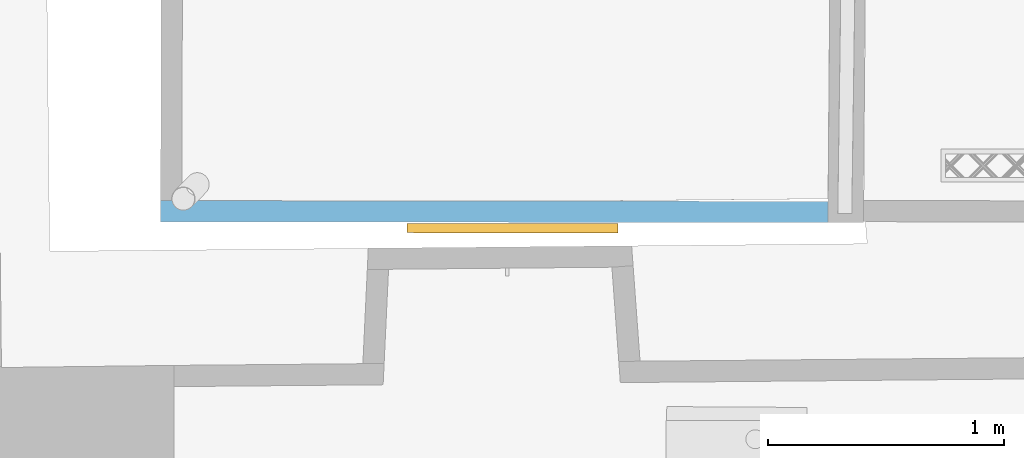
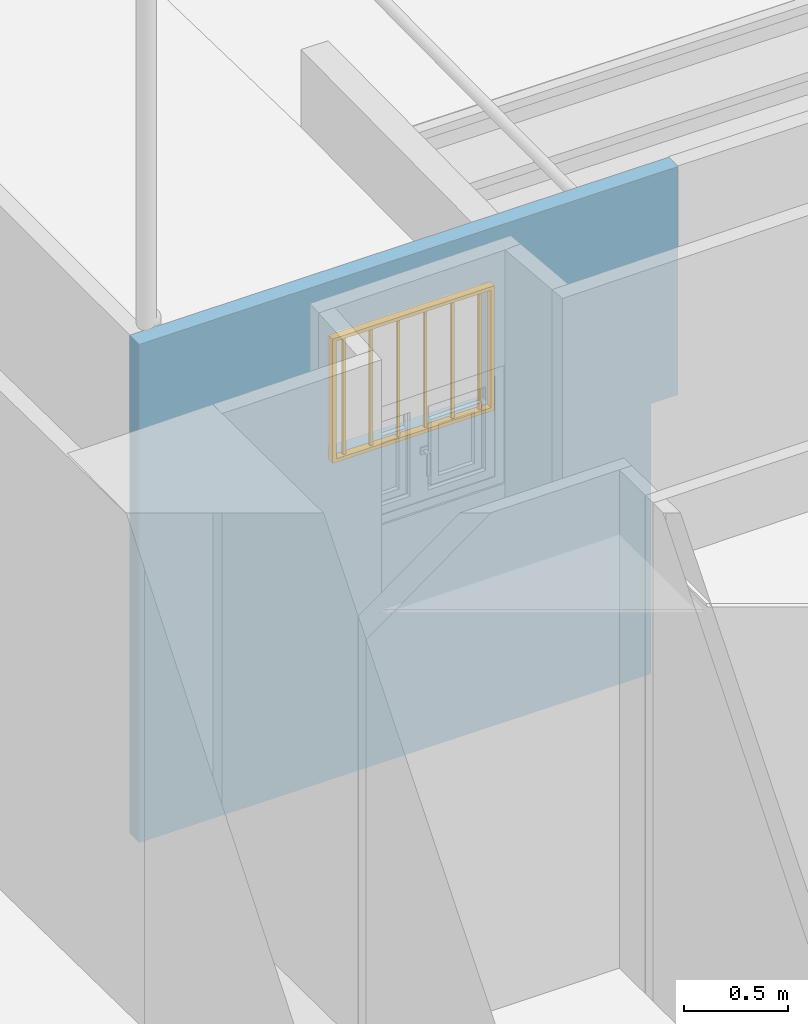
# One storey, part 106 of 133: 1 window, 1 opening, plus 1 element that does not belong to this part.
"""IFC2X3 building model written with IfcOpenShell, lengths in centimetres."""

import ifcopenshell
import ifcopenshell.guid

model = None  # the IFC model being written
_history = None  # IfcOwnerHistory: only IFC2X3 demands one
_inside = {}  # id of a spatial element -> (the spatial element, [elements in it])
_under = {}  # id of a project, library or spatial element -> (it, [spatial elements below it])
_declared = {}  # id of a project -> (the project, [libraries it declares])
_typed = {}  # id of a type object -> (the type object, [elements of that type])
_made_of = {}  # id of a material, layer set ... -> (it, [elements and type objects made of it])


def new_model(schema):
    """Start an empty IFC model of exactly this schema.

    Asked for "IFC4X3", IfcOpenShell would pick the latest addendum, in which some entities
    have other attributes; the version numbers below select the first issue.
    IFC2X3 requires an IfcOwnerHistory on every rooted entity: one is made here for all.
    """
    global model, _history
    if schema == "IFC4X3":
        model = ifcopenshell.file(schema_version=(4, 3, 0, 0))
    else:
        model = ifcopenshell.file(schema=schema)
    _inside.clear()
    _under.clear()
    _declared.clear()
    _typed.clear()
    _made_of.clear()
    _history = None
    if model.schema == "IFC2X3":
        org = make("IfcOrganization", Name="unknown")
        user = make(
            "IfcPersonAndOrganization",
            ThePerson=make("IfcPerson", FamilyName="unknown"),
            TheOrganization=org,
        )
        app = make(
            "IfcApplication",
            ApplicationDeveloper=org,
            Version="unknown",
            ApplicationFullName="unknown",
            ApplicationIdentifier="unknown",
        )
        _history = make(
            "IfcOwnerHistory",
            OwningUser=user,
            OwningApplication=app,
            ChangeAction="ADDED",
            CreationDate=0,
        )
    return model


def make(cls, **values):
    """One entity of the class cls with the attributes given. An attribute that is None is left unset."""
    return model.create_entity(
        cls, **{name: value for name, value in values.items() if value is not None}
    )


def entity(cls, *values):
    """Any entity or typed value of the class cls, its attributes in the order of the schema. None: left unset."""
    e = model.create_entity(cls)
    for i, value in enumerate(values):
        if value is not None:
            e[i] = value
    return e


def rooted(cls, **values):
    """An entity with a GlobalId (a new one), such as an element, a storey or a relation."""
    return make(cls, GlobalId=ifcopenshell.guid.new(), OwnerHistory=_history, **values)


def si_unit(unit_type, name, prefix=None):
    """IfcSIUnit, for example si_unit("LENGTHUNIT", "METRE", prefix="MILLI")."""
    return make("IfcSIUnit", UnitType=unit_type, Prefix=prefix, Name=name)


def converted_unit(unit_type, name, factor, base, dimensions=None, offset=None):
    """IfcConversionBasedUnit, such as the inch: factor (a typed value) times the base unit."""
    return make(
        "IfcConversionBasedUnit"
        if offset is None
        else "IfcConversionBasedUnitWithOffset",
        ConversionOffset=offset,
        Dimensions=None
        if dimensions is None
        else entity("IfcDimensionalExponents", *dimensions),
        UnitType=unit_type,
        Name=name,
        ConversionFactor=make(
            "IfcMeasureWithUnit", ValueComponent=factor, UnitComponent=base
        ),
    )


def assignment(units):
    """IfcUnitAssignment: the units of a project."""
    return None if units is None else make("IfcUnitAssignment", Units=units)


def point(xyz):
    """IfcCartesianPoint."""
    return None if xyz is None else make("IfcCartesianPoint", Coordinates=xyz)


def direction(xyz):
    """IfcDirection."""
    return None if xyz is None else make("IfcDirection", DirectionRatios=xyz)


def frame(location, z_axis=None, x_axis=None):
    """IfcAxis2Placement3D, a coordinate frame: its origin and axes. An axis left out is left unset."""
    return make(
        "IfcAxis2Placement3D",
        Location=point(location),
        Axis=direction(z_axis),
        RefDirection=direction(x_axis),
    )


def origin():
    """The frame at (0, 0, 0) with its axes left unset."""
    return frame((0.0, 0.0, 0.0))


def origin_with_axes():
    """The frame at (0, 0, 0) with the z axis (0, 0, 1) and the x axis (1, 0, 0) written out."""
    return frame((0.0, 0.0, 0.0), z_axis=(0.0, 0.0, 1.0), x_axis=(1.0, 0.0, 0.0))


def place(relative_to, where):
    """IfcLocalPlacement: puts the frame where relative to a parent placement (None: the world)."""
    return make(
        "IfcLocalPlacement", PlacementRelTo=relative_to, RelativePlacement=where
    )


def context(
    kind, dimensions, precision=None, world=None, true_north=None, identifier=None
):
    """IfcGeometricRepresentationContext, for example the 3D "Model" context."""
    return make(
        "IfcGeometricRepresentationContext",
        ContextIdentifier=identifier,
        ContextType=kind,
        CoordinateSpaceDimension=dimensions,
        Precision=precision,
        WorldCoordinateSystem=world,
        TrueNorth=true_north,
    )


def subcontext(parent, identifier, kind, view, scale=None):
    """IfcGeometricRepresentationSubContext, for example "Body" below "Model"."""
    return make(
        "IfcGeometricRepresentationSubContext",
        ContextIdentifier=identifier,
        ContextType=kind,
        ParentContext=parent,
        TargetScale=scale,
        TargetView=view,
    )


def project(units=None, contexts=None):
    """IfcProject with its units and contexts."""
    return rooted(
        "IfcProject",
        Name="project",
        RepresentationContexts=contexts,
        UnitsInContext=assignment(units),
    )


def spatial(cls, under=None, at=None, **own):
    """A site, building, storey or space (cls), placed at a placement, below another one or the project."""
    s = rooted(cls, ObjectPlacement=at, **own)
    if under is not None:
        _under.setdefault(under.id(), (under, []))[1].append(s)
    return s


def polyline(points):
    """IfcPolyline through the points."""
    return make("IfcPolyline", Points=[point(p) for p in points])


def outline(outer, holes=None, kind="AREA"):
    """IfcArbitraryClosedProfileDef: a profile drawn as a closed curve; with holes, ...WithVoids."""
    if holes is None:
        return make("IfcArbitraryClosedProfileDef", ProfileType=kind, OuterCurve=outer)
    return make(
        "IfcArbitraryProfileDefWithVoids",
        ProfileType=kind,
        OuterCurve=outer,
        InnerCurves=holes,
    )


def extrude(swept, where, along, depth):
    """IfcExtrudedAreaSolid: the profile swept, set in the frame where, extruded along a direction by depth."""
    return make(
        "IfcExtrudedAreaSolid",
        SweptArea=swept,
        Position=where,
        ExtrudedDirection=direction(along),
        Depth=depth,
    )


def clip(a, b, op="DIFFERENCE"):
    """IfcBooleanClippingResult: the solid a cut by the half space b."""
    return make(
        "IfcBooleanClippingResult", Operator=op, FirstOperand=a, SecondOperand=b
    )


def bounded_halfspace(plane, agree, where, boundary):
    """IfcPolygonalBoundedHalfSpace: a half space limited to a polygon's prism."""
    return make(
        "IfcPolygonalBoundedHalfSpace",
        BaseSurface=make("IfcPlane", Position=plane),
        AgreementFlag=agree,
        Position=where,
        PolygonalBoundary=boundary,
    )


def faces_of(points, faces, orient=None, outer=None):
    """IfcFace entities. A face is a list of loops; a loop is a list of indices into points, from 0.

    orient and outer hold one flag for each loop. By default every Orientation is true, the
    first loop of a face is its IfcFaceOuterBound and the others are IfcFaceBound.
    """
    made = []
    for i, loops in enumerate(faces):
        bounds = []
        for j, loop in enumerate(loops):
            is_outer = j == 0 if outer is None else outer[i][j]
            bounds.append(
                make(
                    "IfcFaceOuterBound" if is_outer else "IfcFaceBound",
                    Bound=make("IfcPolyLoop", Polygon=[points[k] for k in loop]),
                    Orientation=True if orient is None else orient[i][j],
                )
            )
        made.append(make("IfcFace", Bounds=bounds))
    return made


def faceted_brep(points, faces, orient=None, outer=None, voids=None):
    """IfcFacetedBrep: a solid bounded by flat faces; with voids (closed shells), ...WithVoids."""
    shared = [point(p) for p in points]
    hull = make("IfcClosedShell", CfsFaces=faces_of(shared, faces, orient, outer))
    if voids is None:
        return make("IfcFacetedBrep", Outer=hull)
    return make(
        "IfcFacetedBrepWithVoids",
        Outer=hull,
        Voids=[
            make(cls, CfsFaces=faces_of(shared, fs, o, b)) for cls, fs, o, b in voids
        ],
    )


def shape(context_of_items, identifier, shape_type, items):
    """IfcShapeRepresentation: the items that make up one representation, for example the "Body"."""
    return make(
        "IfcShapeRepresentation",
        ContextOfItems=context_of_items,
        RepresentationIdentifier=identifier,
        RepresentationType=shape_type,
        Items=items,
    )


def source(mapping_origin, context_of_items, identifier, shape_type, items):
    """IfcRepresentationMap: a shape defined once, which mapped items show again and again."""
    return make(
        "IfcRepresentationMap",
        MappingOrigin=mapping_origin,
        MappedRepresentation=shape(context_of_items, identifier, shape_type, items),
    )


def transform(
    local_origin,
    x_axis=None,
    y_axis=None,
    z_axis=None,
    scale=None,
    scale2=None,
    scale3=None,
    uniform=True,
):
    """IfcCartesianTransformationOperator3D, or its non-uniform kind. x_axis, y_axis, z_axis: its Axis1, 2, 3."""
    if uniform:
        return make(
            "IfcCartesianTransformationOperator3D",
            Axis1=direction(x_axis),
            Axis2=direction(y_axis),
            LocalOrigin=point(local_origin),
            Scale=scale,
            Axis3=direction(z_axis),
        )
    return make(
        "IfcCartesianTransformationOperator3DnonUniform",
        Axis1=direction(x_axis),
        Axis2=direction(y_axis),
        LocalOrigin=point(local_origin),
        Scale=scale,
        Axis3=direction(z_axis),
        Scale2=scale2,
        Scale3=scale3,
    )


def mapped(mapping_source, mapping_target):
    """IfcMappedItem: shows the shape of a source again, moved by a transform."""
    return make(
        "IfcMappedItem", MappingSource=mapping_source, MappingTarget=mapping_target
    )


def material(Name=None, Category=None):
    """IfcMaterial."""
    return make("IfcMaterial", Name=Name, Category=Category)


def layer(
    of_material, thickness, ventilated=None, Name=None, Category=None, Priority=None
):
    """IfcMaterialLayer: one layer of a wall or slab, of a material (None: an air gap)."""
    return make(
        "IfcMaterialLayer",
        Material=of_material,
        LayerThickness=thickness,
        IsVentilated=ventilated,
        Name=Name,
        Category=Category,
        Priority=Priority,
    )


def layer_set(layers, Name=None):
    """IfcMaterialLayerSet."""
    return make("IfcMaterialLayerSet", MaterialLayers=layers, LayerSetName=Name)


def layer_usage(for_layer_set, set_direction, sense, offset, extent=None):
    """IfcMaterialLayerSetUsage: how a layer set lies in its element."""
    return make(
        "IfcMaterialLayerSetUsage",
        ForLayerSet=for_layer_set,
        LayerSetDirection=set_direction,
        DirectionSense=sense,
        OffsetFromReferenceLine=offset,
        ReferenceExtent=extent,
    )


def made_of(thing, what):
    """Note that an element or type object is made of a material, layer set ...; save() writes the relation."""
    if what is not None:
        _made_of.setdefault(what.id(), (what, []))[1].append(thing)
    return thing


def type_object(cls, material=None, **own):
    """A type object (cls), such as IfcWallType, which elements share."""
    return made_of(rooted(cls, **own), material)


def element(
    cls,
    number,
    at=None,
    inside=None,
    cuts=None,
    type_object=None,
    material=None,
    context=None,
    identifier="Body",
    shape_type=None,
    held_by="IfcProductDefinitionShape",
    body=None,
    shapes=None,
    **own,
):
    """One element of the class cls, such as IfcWall. Its Tag is "e" and its number.

    at: its placement. inside: the storey or other place that contains it. cuts: it is an
    opening in that element (IfcRelVoidsElement). A single representation is given by context,
    identifier, shape_type and body (its items); several are given by shapes. held_by: the class
    of the entity that holds the representations. save() writes the other relations.
    """
    e = rooted(cls, Tag="e%d" % number, ObjectPlacement=at, **own)
    if body is not None:
        shapes = [shape(context, identifier, shape_type, body)]
    if shapes is not None:
        e.Representation = make(held_by, Representations=shapes)
    if inside is not None:
        _inside.setdefault(inside.id(), (inside, []))[1].append(e)
    if cuts is not None:
        rooted(
            "IfcRelVoidsElement", RelatingBuildingElement=cuts, RelatedOpeningElement=e
        )
    if type_object is not None:
        _typed.setdefault(type_object.id(), (type_object, []))[1].append(e)
    return made_of(e, material)


def fill(opening, filler):
    """IfcRelFillsElement: the door or window that sits in an opening."""
    return rooted(
        "IfcRelFillsElement",
        RelatingOpeningElement=opening,
        RelatedBuildingElement=filler,
    )


def aggregate(whole, parts):
    """IfcRelAggregates: a whole, such as a stair, and the parts it consists of."""
    return rooted("IfcRelAggregates", RelatingObject=whole, RelatedObjects=parts)


def save(model, path):
    """Write the relations noted so far, then the file.

    IfcRelAggregates (storeys below a building ...), IfcRelContainedInSpatialStructure (elements
    in a storey), IfcRelDefinesByType, IfcRelAssociatesMaterial and IfcRelDeclares: one each for
    every whole, place, type object, material and project.
    """
    for whole, parts in _under.values():
        aggregate(whole, parts)
    for where, things in _inside.values():
        rooted(
            "IfcRelContainedInSpatialStructure",
            RelatedElements=things,
            RelatingStructure=where,
        )
    for kind, things in _typed.values():
        rooted("IfcRelDefinesByType", RelatedObjects=things, RelatingType=kind)
    for what, things in _made_of.values():
        rooted("IfcRelAssociatesMaterial", RelatedObjects=things, RelatingMaterial=what)
    for by, libraries in _declared.values():
        rooted("IfcRelDeclares", RelatingContext=by, RelatedDefinitions=libraries)
    model.write(path)


model = new_model("IFC2X3")

# Units and contexts
model_context = context("Model", 3, precision=0.0001, world=origin(), true_north=direction((0.225632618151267, 0.974212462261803, 0.0)))
body_context = subcontext(model_context, "Body", "Model", "MODEL_VIEW")
footprint_context = subcontext(model_context, "FootPrint", "Model", "MODEL_VIEW")
profile_context = subcontext(model_context, "Profile", "Model", "MODEL_VIEW")
ifc_project = project(units=[si_unit("LENGTHUNIT", "METRE", prefix="CENTI"), si_unit("AREAUNIT", "SQUARE_METRE", prefix="CENTI"), si_unit("VOLUMEUNIT", "CUBIC_METRE", prefix="CENTI"), converted_unit("PLANEANGLEUNIT", "DEGREE", entity("IfcRatioMeasure", 0.0174532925), si_unit("PLANEANGLEUNIT", "RADIAN"), dimensions=[0, 0, 0, 0, 0, 0, 0])], contexts=[model_context])

# Site, building, storey
site_placement = place(None, origin_with_axes())
site = spatial("IfcSite", under=ifc_project, at=site_placement, Name="Default Site", CompositionType="ELEMENT")
building_placement = place(site_placement, origin_with_axes())
building = spatial("IfcBuilding", under=site, at=building_placement, Name="Default Building", CompositionType="ELEMENT")
storey_placement = place(building_placement, frame((0.0, 0.0, -291.400371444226), z_axis=(0.0, 0.0, 1.0), x_axis=(1.0, 0.0, 0.0)))
storey = spatial("IfcBuildingStorey", under=building, at=storey_placement, Name="Rez-de-Jardin", CompositionType="ELEMENT", Elevation=-291.400371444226)

# Wall, opening, window
ifc_material_1 = material(Name="<aucun>")
ifc_layer = layer(ifc_material_1, 9.0)
ifc_layer_set = layer_set([ifc_layer], Name="default")
ifc_layer_usage = layer_usage(ifc_layer_set, "AXIS2", "POSITIVE", -4.5)
wall_type = type_object("IfcWallType", Name="default 90", PredefinedType="NOTDEFINED", material=ifc_layer_set)
wall_placement = place(storey_placement, frame((-355.440714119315, 614.480019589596, -1.94511073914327e-11), z_axis=(0.0, 0.0, 1.0), x_axis=(-0.999999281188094, 0.00119900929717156, 0.0)))
wall = element("IfcWallStandardCase", 1, at=wall_placement, inside=storey, type_object=wall_type, material=ifc_layer_usage, Name="Enveloppe 310077", context=body_context, shape_type="Clipping", body=[
    clip(extrude(outline(polyline([(298.07446258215, 4.49999813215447), (0.100000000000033, 4.49999999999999), (0.099999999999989, -4.49999999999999), (298.064265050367, -4.50000000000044), (298.07446258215, 4.49999813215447)])), frame((0.0, 0.0, 4.44089209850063e-14), z_axis=(0.0, 0.0, 1.0), x_axis=(1.0, 0.0, 0.0)), (0.0, 0.0, 1.0), 291.413221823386), bounded_halfspace(frame((0.099999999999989, -4.50000000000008, 157.900371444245), z_axis=(0.0, 0.0, 1.0), x_axis=(8.58774856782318e-15, 1.0, 0.0)), True, frame((0.099999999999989, -4.50000000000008, 157.900371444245), z_axis=(0.0, 0.0, 1.0), x_axis=(1.0, 0.0, 0.0)), polyline([(0.0, -8.88178419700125e-14), (4.44089209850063e-14, 8.99999999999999), (15.0095344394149, 8.9999999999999), (14.9496525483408, -8.88178419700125e-14), (0.0, -8.88178419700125e-14)]))),
])
opening_placement = place(wall_placement, frame((104.148639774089, -1.13686837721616e-13, 188.096410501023), z_axis=(0.0, 0.0, 1.0), x_axis=(1.0, -1.53371239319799e-15, 0.0)))
cartesian_point_1 = entity("IfcCartesianPoint", [-8.88178419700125e-14, 0.0, 72.7107917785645])
cartesian_point_2 = entity("IfcCartesianPoint", [89.5164647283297, 4.49999999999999])
opening = element("IfcOpeningElement", 2, at=opening_placement, cuts=wall, Name="4294966547_11", ObjectType="Opening", shapes=[
    shape(body_context, "Body", "SweptSolid", [extrude(outline(polyline([(-8.88178419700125e-14, 72.7107917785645), (-8.88178419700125e-14, 2.22044604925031e-14), (89.5164647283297, 2.22044604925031e-14), (89.5164647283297, 72.7107917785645), (-8.88178419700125e-14, 72.7107917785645)])), frame((0.0, 14.5, 0.0), z_axis=(0.0, -1.0, 0.0), x_axis=(1.0, 0.0, 0.0)), (0.0, 0.0, 1.0), 29.0)]),
    shape(profile_context, "Profile", "GeometricCurveSet", [entity("IfcGeometricCurveSet", [entity("IfcPolyline", [cartesian_point_1, entity("IfcCartesianPoint", [-8.88178419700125e-14, 0.0, 2.22044604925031e-14]), entity("IfcCartesianPoint", [89.5164647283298, 0.0, 2.22044604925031e-14]), entity("IfcCartesianPoint", [89.5164647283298, 0.0, 72.7107917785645]), cartesian_point_1])])]),
    shape(footprint_context, "FootPrint", "GeometricCurveSet", [entity("IfcGeometricCurveSet", [entity("IfcPolyline", [cartesian_point_2, entity("IfcCartesianPoint", [-8.88178419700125e-14, 4.4999999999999]), entity("IfcCartesianPoint", [0.0, -4.49999999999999]), entity("IfcCartesianPoint", [89.5164647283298, -4.49999999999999]), cartesian_point_2])])]),
])
ifc_material_2 = material(Name="Blanc de sécurité")
window_style = type_object("IfcWindowStyle", Name="Default Style Name", ConstructionType="NOTDEFINED", OperationType="NOTDEFINED", ParameterTakesPrecedence=False, Sizeable=True)
shared_shape = source(origin_with_axes(), body_context, "Body", "Brep", [
    faceted_brep([(-42.7582323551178, 70.7107901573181, -1.99999995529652), (-42.7582323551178, 70.7107901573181, 1.99999995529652), (-42.7582323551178, 1.99999995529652, 1.99999995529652), (-42.7582323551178, 1.99999995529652, -1.99999995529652), (-44.7582334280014, 72.710794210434, 1.99999995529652), (-44.7582334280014, -2.22044604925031e-14, 1.99999995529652), (-44.7582334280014, 72.710794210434, -1.99999995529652), (-44.7582334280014, -2.22044604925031e-14, -1.99999995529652), (42.7582323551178, 1.99999995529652, 1.99999995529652), (42.7582323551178, 1.99999995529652, -1.99999995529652), (44.7582334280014, -2.22044604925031e-14, 1.99999995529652), (44.7582334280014, -2.22044604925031e-14, -1.99999995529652), (42.7582323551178, 70.7107901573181, 1.99999995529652), (42.7582323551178, 70.7107901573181, -1.99999995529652), (44.7582334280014, 72.710794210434, 1.99999995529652), (44.7582334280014, 72.710794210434, -1.99999995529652)], [[[0, 1, 2, 3]], [[1, 4, 5, 2]], [[4, 6, 7, 5]], [[6, 0, 3, 7]], [[3, 2, 8, 9]], [[2, 5, 10, 8]], [[5, 7, 11, 10]], [[7, 3, 9, 11]], [[9, 8, 12, 13]], [[8, 10, 14, 12]], [[10, 11, 15, 14]], [[11, 9, 13, 15]], [[13, 12, 1, 0]], [[12, 14, 4, 1]], [[14, 15, 6, 4]], [[15, 13, 0, 6]]]),
    faceted_brep([(-36.7500007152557, 70.7107901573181, -0.749999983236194), (-38.2499992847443, 70.7107901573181, -0.749999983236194), (-38.2499992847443, 70.7107901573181, 0.749999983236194), (-36.7500007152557, 70.7107901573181, 0.749999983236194), (-36.7500007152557, 1.99999995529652, 0.749999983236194), (-38.2499992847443, 1.99999995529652, 0.749999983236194), (-38.2499992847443, 1.99999995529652, -0.749999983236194), (-36.7500007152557, 1.99999995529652, -0.749999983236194)], [[[0, 1, 2, 3]], [[4, 5, 6, 7]], [[3, 2, 5, 4]], [[2, 1, 6, 5]], [[1, 0, 7, 6]], [[0, 3, 4, 7]]]),
    faceted_brep([(-21.7500001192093, 70.7107901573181, -0.749999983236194), (-23.2500001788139, 70.7107901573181, -0.749999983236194), (-23.2500001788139, 70.7107901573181, 0.749999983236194), (-21.7500001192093, 70.7107901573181, 0.749999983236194), (-21.7500001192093, 1.99999995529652, 0.749999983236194), (-23.2500001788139, 1.99999995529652, 0.749999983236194), (-23.2500001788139, 1.99999995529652, -0.749999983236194), (-21.7500001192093, 1.99999995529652, -0.749999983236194)], [[[0, 1, 2, 3]], [[4, 5, 6, 7]], [[3, 2, 5, 4]], [[2, 1, 6, 5]], [[1, 0, 7, 6]], [[0, 3, 4, 7]]]),
    faceted_brep([(-6.7500002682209, 70.7107901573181, -0.749999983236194), (-8.25000032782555, 70.7107901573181, -0.749999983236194), (-8.25000032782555, 70.7107901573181, 0.749999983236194), (-6.7500002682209, 70.7107901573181, 0.749999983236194), (-6.7500002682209, 1.99999995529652, 0.749999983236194), (-8.25000032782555, 1.99999995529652, 0.749999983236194), (-8.25000032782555, 1.99999995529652, -0.749999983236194), (-6.7500002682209, 1.99999995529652, -0.749999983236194), (-6.75000026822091, 1.99999995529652, 0.749999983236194), (-6.75000026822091, 1.99999995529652, -0.749999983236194)], [[[0, 1, 2, 3]], [[4, 5, 6, 7]], [[3, 2, 5, 4]], [[2, 1, 6, 5]], [[1, 0, 7, 6]], [[0, 3, 8, 9]]]),
    faceted_brep([(8.25000032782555, 70.7107901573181, -0.749999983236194), (6.7500002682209, 70.7107901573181, -0.749999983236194), (6.7500002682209, 70.7107901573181, 0.749999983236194), (8.25000032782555, 70.7107901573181, 0.749999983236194), (8.25000032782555, 1.99999995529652, 0.749999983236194), (6.7500002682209, 1.99999995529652, 0.749999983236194), (6.7500002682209, 1.99999995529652, -0.749999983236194), (8.25000032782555, 1.99999995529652, -0.749999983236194)], [[[0, 1, 2, 3]], [[4, 5, 6, 7]], [[3, 2, 5, 4]], [[2, 1, 6, 5]], [[1, 0, 7, 6]], [[0, 3, 4, 7]]]),
    faceted_brep([(23.2500001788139, 70.7107901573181, -0.749999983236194), (21.7500001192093, 70.7107901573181, -0.749999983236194), (21.7500001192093, 70.7107901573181, 0.749999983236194), (23.2500001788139, 70.7107901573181, 0.749999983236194), (23.2500001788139, 1.99999995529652, 0.749999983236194), (21.7500001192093, 1.99999995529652, 0.749999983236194), (21.7500001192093, 1.99999995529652, -0.749999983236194), (23.2500001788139, 1.99999995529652, -0.749999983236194)], [[[0, 1, 2, 3]], [[4, 5, 6, 7]], [[3, 2, 5, 4]], [[2, 1, 6, 5]], [[1, 0, 7, 6]], [[0, 3, 4, 7]]]),
    faceted_brep([(38.2499992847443, 70.7107901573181, -0.749999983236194), (36.7500007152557, 70.7107901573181, -0.749999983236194), (36.7500007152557, 70.7107901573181, 0.749999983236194), (38.2499992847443, 70.7107901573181, 0.749999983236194), (38.2499992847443, 1.99999995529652, 0.749999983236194), (36.7500007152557, 1.99999995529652, 0.749999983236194), (36.7500007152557, 1.99999995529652, -0.749999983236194), (38.2499992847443, 1.99999995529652, -0.749999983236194)], [[[0, 1, 2, 3]], [[4, 5, 6, 7]], [[3, 2, 5, 4]], [[2, 1, 6, 5]], [[1, 0, 7, 6]], [[0, 3, 4, 7]]]),
])
window_placement = place(opening_placement, frame((0.0, 0.0, -2.8421709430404e-14), z_axis=(0.0, 0.0, 1.0), x_axis=(1.0, 0.0, 0.0)))
window = element("IfcWindow", 3, at=window_placement, inside=storey, type_object=window_style, material=ifc_material_2, Name="Baie 363234", ObjectType="Opening", context=body_context, shape_type="MappedRepresentation", body=[
    mapped(shared_shape, transform((44.7582323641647, 6.99999999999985, 0.0), x_axis=(-1.0, 0.0, 0.0), y_axis=(0.0, 0.0, 1.0), z_axis=(0.0, 1.0, 0.0), scale=1.0, scale2=1.0, scale3=1.0, uniform=False)),
])
fill(opening, window)

save(model, "model.ifc")
